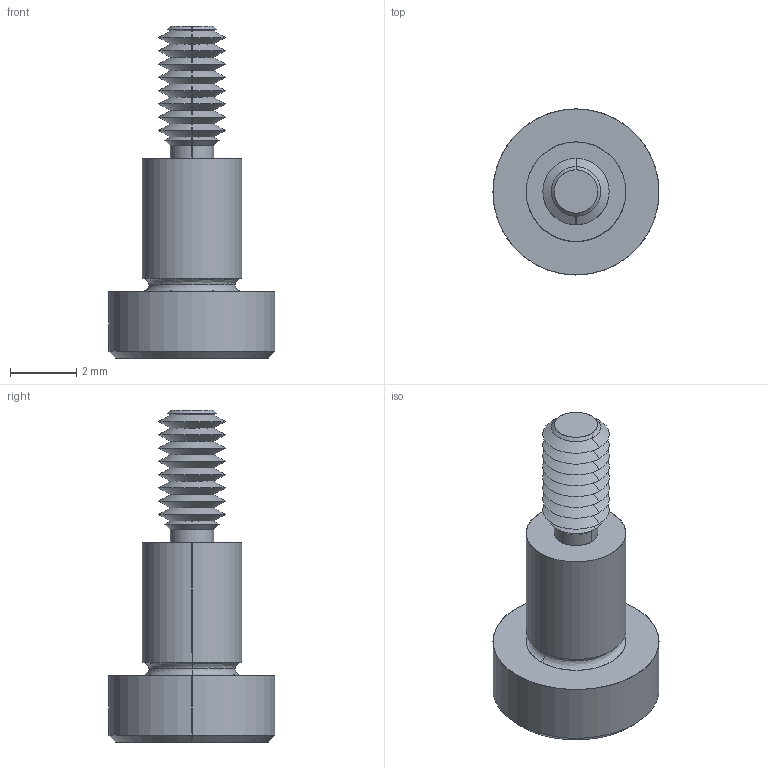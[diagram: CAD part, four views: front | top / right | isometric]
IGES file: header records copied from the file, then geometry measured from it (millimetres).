
Start section: SolidWorks IGES file using analytic representation for surfaces
Global section: file name: C:\Users\IanO\Documents\Temp Folder\GENERAL\SCREW REVISION\P0130_v2\P0130.T5_v2_20220106_IGES\P0130.030-004-T5.igs; native system: SolidWorks 2019; preprocessor: SolidWorks 2019; author: IanO; date: 220106.215829; units: millimetre
Bounding box: 5 x 5 x 10 mm (x, y, z)
Surface area: 154 mm2 (no closed solid volume)
Topology: 0 solids, 0 shells, 76 faces, 508 edges, 506 vertices
Faces by surface type: revolution 56, bspline 20
